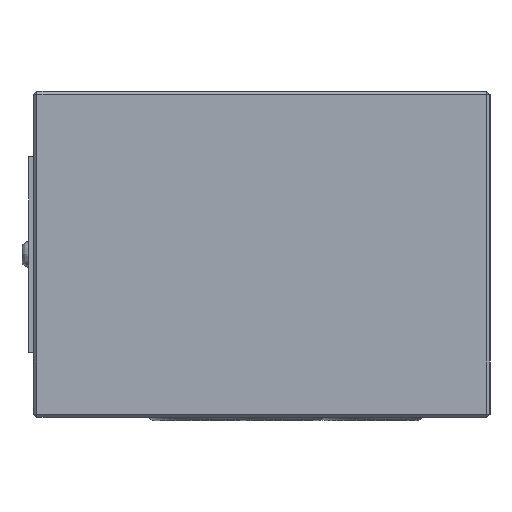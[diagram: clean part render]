
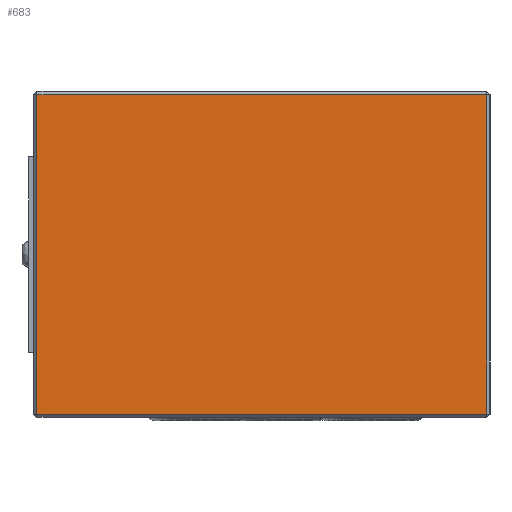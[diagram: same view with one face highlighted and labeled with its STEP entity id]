
A CAD part, left-side view. The second image highlights one B-rep face of the part: STEP entity #683.
In plain terms, the highlighted planar face has unit normal (-1, 0, 0).
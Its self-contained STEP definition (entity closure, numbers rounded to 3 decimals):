
#683=ADVANCED_FACE('',(#851),#794,.T.);
#794=PLANE('',#2145);
#851=FACE_OUTER_BOUND('',#978,.T.);
#978=EDGE_LOOP('',(#1272,#1273,#1274,#1275));
#1272=ORIENTED_EDGE('',*,*,#1774,.T.);
#1273=ORIENTED_EDGE('',*,*,#1775,.T.);
#1274=ORIENTED_EDGE('',*,*,#1776,.T.);
#1275=ORIENTED_EDGE('',*,*,#1777,.T.);
#1601=VERTEX_POINT('',#5216);
#1602=VERTEX_POINT('',#5217);
#1603=VERTEX_POINT('',#5219);
#1604=VERTEX_POINT('',#5221);
#1774=EDGE_CURVE('',#1601,#1602,#1915,.T.);
#1775=EDGE_CURVE('',#1602,#1603,#1916,.T.);
#1776=EDGE_CURVE('',#1603,#1604,#1917,.T.);
#1777=EDGE_CURVE('',#1604,#1601,#1918,.T.);
#1915=LINE('',#5215,#1989);
#1916=LINE('',#5218,#1990);
#1917=LINE('',#5220,#1991);
#1918=LINE('',#5222,#1992);
#1989=VECTOR('',#2500,1.);
#1990=VECTOR('',#2501,1.);
#1991=VECTOR('',#2502,1.);
#1992=VECTOR('',#2503,1.);
#2145=AXIS2_PLACEMENT_3D('',#5223,#2504,#2505);
#2500=DIRECTION('',(0.,0.,-1.));
#2501=DIRECTION('',(0.,-1.,0.));
#2502=DIRECTION('',(0.,0.,1.));
#2503=DIRECTION('',(0.,1.,0.));
#2504=DIRECTION('',(-1.,0.,0.));
#2505=DIRECTION('',(0.,0.,-1.));
#5215=CARTESIAN_POINT('',(32.898,86.514,49.5));
#5216=CARTESIAN_POINT('',(32.898,86.514,49.));
#5217=CARTESIAN_POINT('',(32.898,86.514,0.));
#5218=CARTESIAN_POINT('',(32.898,17.014,0.));
#5219=CARTESIAN_POINT('',(32.898,17.514,0.));
#5220=CARTESIAN_POINT('',(32.898,17.514,49.5));
#5221=CARTESIAN_POINT('',(32.898,17.514,49.));
#5222=CARTESIAN_POINT('',(32.898,52.014,49.));
#5223=CARTESIAN_POINT('',(32.898,52.014,49.5));
